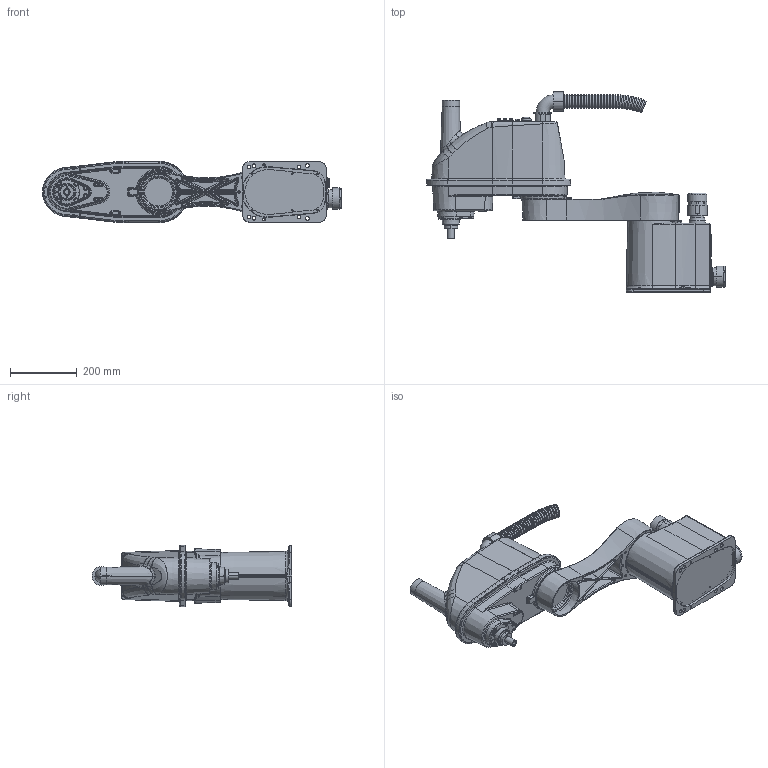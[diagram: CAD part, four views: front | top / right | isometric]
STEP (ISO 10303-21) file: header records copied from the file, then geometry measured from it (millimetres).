
FILE_DESCRIPTION((''),'2;1');
FILE_NAME('THE600_3D_ASM','2024-06-07T08:53:28',('15575'),(''),'CREO PARAMETRIC BY PTC INC, 2020454','CREO PARAMETRIC BY PTC INC, 2020454','');
FILE_SCHEMA(('AUTOMOTIVE_DESIGN { 1 0 10303 214 1 1 1 1 }'));
Products named in the file (7): THE600_BASE; THE600_1ST_ARM; THE600_BALL_SCREW; THE600_2ND_ARM_COVER_; THE600_2ND_ARM4; THE600_NF40_SHORT; THE600_3D_ASM
Assembly tree (6 placements, depth 2):
  THE600_3D_ASM
    THE600_BASE
    THE600_1ST_ARM
    THE600_BALL_SCREW
    THE600_2ND_ARM_COVER_
    THE600_2ND_ARM4
    THE600_NF40_SHORT
Bounding box: 894.73 x 598.65 x 184 mm (x, y, z)
Volume: 6559061.6 mm3; surface area: 1630313.9 mm2
Topology: 8 solids, 37 shells, 5268 faces, 12986 edges, 8054 vertices
Faces by surface type: cylinder 1856, plane 1693, cone 813, bspline 411, torus 375, sphere 116, revolution 2, extrusion 2
Entity records: 232776 total; most frequent: CARTESIAN_POINT 65258, ORIENTED_EDGE 25481, DIRECTION 24344, EDGE_CURVE 12929, PRESENTATION_STYLE_ASSIGNMENT 10616, AXIS2_PLACEMENT_3D 9889, STYLED_ITEM 9111, VERTEX_POINT 8054
